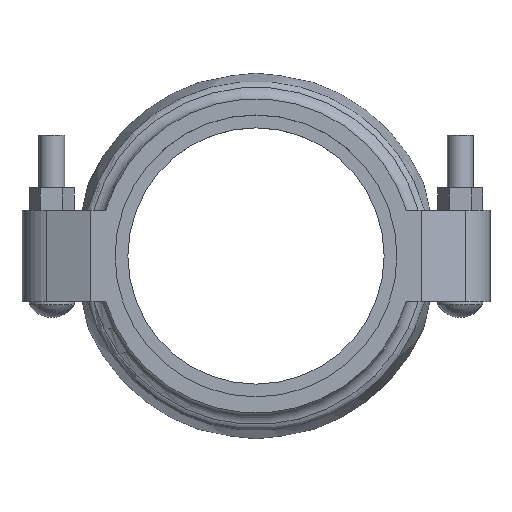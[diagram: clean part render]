
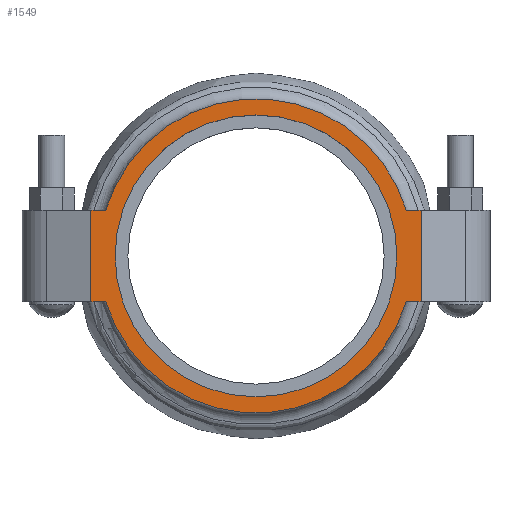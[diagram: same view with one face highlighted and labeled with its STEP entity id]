
A CAD part, top view. The second image highlights one B-rep face of the part: STEP entity #1549.
In plain terms, the highlighted planar face has unit normal (0, 0, 1).
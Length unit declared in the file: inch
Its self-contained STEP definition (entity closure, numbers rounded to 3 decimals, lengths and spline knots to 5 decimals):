
#103=FACE_BOUND('',#301,.T.);
#141=PLANE('',#1695);
#212=FACE_OUTER_BOUND('',#300,.T.);
#300=EDGE_LOOP('',(#1292,#1293,#1294,#1295,#1296,#1297,#1298,#1299));
#301=EDGE_LOOP('',(#1300));
#372=LINE('',#2462,#481);
#384=LINE('',#2603,#493);
#391=LINE('',#2761,#500);
#397=LINE('',#2814,#506);
#406=LINE('',#2899,#515);
#407=LINE('',#2901,#516);
#481=VECTOR('',#1907,0.3937);
#493=VECTOR('',#1939,0.3937);
#500=VECTOR('',#1972,0.3937);
#506=VECTOR('',#1986,0.3937);
#515=VECTOR('',#2007,0.3937);
#516=VECTOR('',#2010,0.3937);
#544=CIRCLE('',#1597,2.75);
#585=CIRCLE('',#1694,3.065);
#586=CIRCLE('',#1696,3.065);
#610=VERTEX_POINT('',#2182);
#669=VERTEX_POINT('',#2442);
#670=VERTEX_POINT('',#2461);
#692=VERTEX_POINT('',#2600);
#693=VERTEX_POINT('',#2602);
#707=VERTEX_POINT('',#2741);
#708=VERTEX_POINT('',#2760);
#718=VERTEX_POINT('',#2811);
#719=VERTEX_POINT('',#2813);
#754=EDGE_CURVE('',#610,#610,#544,.T.);
#834=EDGE_CURVE('',#669,#670,#372,.T.);
#860=EDGE_CURVE('',#692,#693,#384,.T.);
#883=EDGE_CURVE('',#707,#708,#391,.T.);
#894=EDGE_CURVE('',#718,#719,#397,.T.);
#908=EDGE_CURVE('',#708,#718,#406,.T.);
#909=EDGE_CURVE('',#692,#670,#407,.T.);
#920=EDGE_CURVE('',#719,#669,#585,.T.);
#921=EDGE_CURVE('',#693,#707,#586,.T.);
#1292=ORIENTED_EDGE('',*,*,#921,.F.);
#1293=ORIENTED_EDGE('',*,*,#860,.F.);
#1294=ORIENTED_EDGE('',*,*,#909,.T.);
#1295=ORIENTED_EDGE('',*,*,#834,.F.);
#1296=ORIENTED_EDGE('',*,*,#920,.F.);
#1297=ORIENTED_EDGE('',*,*,#894,.F.);
#1298=ORIENTED_EDGE('',*,*,#908,.F.);
#1299=ORIENTED_EDGE('',*,*,#883,.F.);
#1300=ORIENTED_EDGE('',*,*,#754,.T.);
#1549=ADVANCED_FACE('',(#212,#103),#141,.T.);
#1597=AXIS2_PLACEMENT_3D('',#2184,#1765,#1766);
#1694=AXIS2_PLACEMENT_3D('',#2923,#2048,#2049);
#1695=AXIS2_PLACEMENT_3D('',#2924,#2050,#2051);
#1696=AXIS2_PLACEMENT_3D('',#2925,#2052,#2053);
#1765=DIRECTION('center_axis',(0.,0.,-1.));
#1766=DIRECTION('ref_axis',(1.,0.,0.));
#1907=DIRECTION('',(1.,0.,0.));
#1939=DIRECTION('',(-1.,0.,0.));
#1972=DIRECTION('',(-1.,0.,0.));
#1986=DIRECTION('',(1.,0.,0.));
#2007=DIRECTION('',(0.,1.,0.));
#2010=DIRECTION('',(0.,1.,0.));
#2048=DIRECTION('center_axis',(0.,0.,-1.));
#2049=DIRECTION('ref_axis',(-1.,0.,0.));
#2050=DIRECTION('center_axis',(0.,0.,1.));
#2051=DIRECTION('ref_axis',(-1.,0.,0.));
#2052=DIRECTION('center_axis',(0.,0.,-1.));
#2053=DIRECTION('ref_axis',(-1.,0.,0.));
#2182=CARTESIAN_POINT('',(-2.75,0.,1.14));
#2184=CARTESIAN_POINT('Origin',(0.,0.,1.14));
#2442=CARTESIAN_POINT('',(2.93263,0.891,1.14));
#2461=CARTESIAN_POINT('',(3.22,0.891,1.14));
#2462=CARTESIAN_POINT('',(-3.22,0.891,1.14));
#2600=CARTESIAN_POINT('',(3.22,-0.891,1.14));
#2602=CARTESIAN_POINT('',(2.93263,-0.891,1.14));
#2603=CARTESIAN_POINT('',(-3.22,-0.891,1.14));
#2741=CARTESIAN_POINT('',(-2.93263,-0.891,1.14));
#2760=CARTESIAN_POINT('',(-3.22,-0.891,1.14));
#2761=CARTESIAN_POINT('',(-3.22,-0.891,1.14));
#2811=CARTESIAN_POINT('',(-3.22,0.891,1.14));
#2813=CARTESIAN_POINT('',(-2.93263,0.891,1.14));
#2814=CARTESIAN_POINT('',(-3.22,0.891,1.14));
#2899=CARTESIAN_POINT('',(-3.22,0.,1.14));
#2901=CARTESIAN_POINT('',(3.22,0.,1.14));
#2923=CARTESIAN_POINT('Origin',(0.,0.,1.14));
#2924=CARTESIAN_POINT('Origin',(0.,-3.065,1.14));
#2925=CARTESIAN_POINT('Origin',(0.,0.,1.14));
